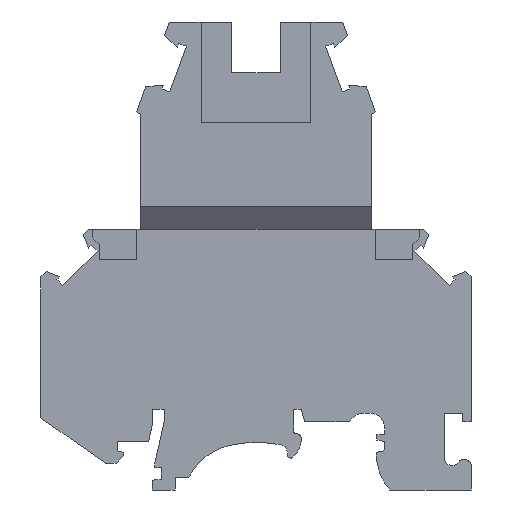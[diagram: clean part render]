
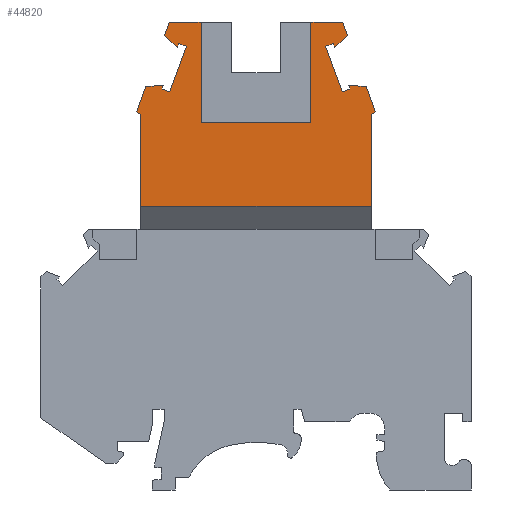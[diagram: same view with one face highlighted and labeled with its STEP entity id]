
A CAD part, left-side view. The second image highlights one B-rep face of the part: STEP entity #44820.
In plain terms, the highlighted planar face has unit normal (-1, 0, 0) as drawn and (0, 0, -1) by its records, which use the part's own axes.
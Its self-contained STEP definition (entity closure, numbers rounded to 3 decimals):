
#40810=CARTESIAN_POINT('',(32.147,87.84,-8.75));
#40820=VERTEX_POINT('',#40810);
#40850=CARTESIAN_POINT('',(32.147,57.59,-8.75));
#40860=DIRECTION('',(0.,-1.,0.));
#40870=VECTOR('',#40860,1.);
#40880=LINE('',#40850,#40870);
#40890=CARTESIAN_POINT('',(32.147,99.721,-8.75));
#40900=VERTEX_POINT('',#40890);
#40910=EDGE_CURVE('',#40900,#40820,#40880,.T.);
#42430=CARTESIAN_POINT('',(47.147,87.954,-8.75));
#42440=DIRECTION('',(0.787,-0.617,0.));
#42450=VECTOR('',#42440,1.);
#42460=LINE('',#42430,#42450);
#42470=CARTESIAN_POINT('',(31.619,100.136,-8.75));
#42480=VERTEX_POINT('',#42470);
#42490=EDGE_CURVE('',#42480,#40900,#42460,.T.);
#42670=CARTESIAN_POINT('',(131.631,-81.099,-8.75));
#42680=DIRECTION('',(0.,0.,1.));
#42690=DIRECTION('',(1.,0.,0.));
#42700=AXIS2_PLACEMENT_3D('',#42670,#42680,#42690);
#42710=PLANE('',#42700);
#42720=CARTESIAN_POINT('',(62.147,57.59,-8.75));
#42730=DIRECTION('',(0.,1.,0.));
#42740=VECTOR('',#42730,1.);
#42750=LINE('',#42720,#42740);
#42760=CARTESIAN_POINT('',(62.147,87.84,-8.75));
#42770=VERTEX_POINT('',#42760);
#42780=CARTESIAN_POINT('',(62.147,99.721,-8.75));
#42790=VERTEX_POINT('',#42780);
#42800=EDGE_CURVE('',#42770,#42790,#42750,.T.);
#42810=ORIENTED_EDGE('',*,*,#42800,.F.);
#42820=CARTESIAN_POINT('',(47.147,87.954,-8.75));
#42830=DIRECTION('',(0.787,0.617,0.));
#42840=VECTOR('',#42830,1.);
#42850=LINE('',#42820,#42840);
#42860=CARTESIAN_POINT('',(62.676,100.136,-8.75));
#42870=VERTEX_POINT('',#42860);
#42880=EDGE_CURVE('',#42790,#42870,#42850,.T.);
#42890=ORIENTED_EDGE('',*,*,#42880,.F.);
#42900=CARTESIAN_POINT('',(78.161,57.59,-8.75));
#42910=DIRECTION('',(-0.342,0.94,0.));
#42920=VECTOR('',#42910,1.);
#42930=LINE('',#42900,#42920);
#42940=CARTESIAN_POINT('',(61.488,103.398,-8.75));
#42950=VERTEX_POINT('',#42940);
#42960=EDGE_CURVE('',#42870,#42950,#42930,.T.);
#42970=ORIENTED_EDGE('',*,*,#42960,.F.);
#42980=CARTESIAN_POINT('',(47.147,104.332,-8.75));
#42990=DIRECTION('',(-0.998,0.065,0.));
#43000=VECTOR('',#42990,1.);
#43010=LINE('',#42980,#43000);
#43020=CARTESIAN_POINT('',(59.194,103.548,-8.75));
#43030=VERTEX_POINT('',#43020);
#43040=EDGE_CURVE('',#42950,#43030,#43010,.T.);
#43050=ORIENTED_EDGE('',*,*,#43040,.F.);
#43060=CARTESIAN_POINT('',(75.921,57.59,-8.75));
#43070=DIRECTION('',(0.342,-0.94,0.));
#43080=VECTOR('',#43070,1.);
#43090=LINE('',#43060,#43080);
#43100=CARTESIAN_POINT('',(59.375,103.052,-8.75));
#43110=VERTEX_POINT('',#43100);
#43120=EDGE_CURVE('',#43030,#43110,#43090,.T.);
#43130=ORIENTED_EDGE('',*,*,#43120,.F.);
#43140=CARTESIAN_POINT('',(47.147,98.601,-8.75));
#43150=DIRECTION('',(-0.94,-0.342,0.));
#43160=VECTOR('',#43150,1.);
#43170=LINE('',#43140,#43160);
#43180=CARTESIAN_POINT('',(58.369,102.686,-8.75));
#43190=VERTEX_POINT('',#43180);
#43200=EDGE_CURVE('',#43110,#43190,#43170,.T.);
#43210=ORIENTED_EDGE('',*,*,#43200,.F.);
#43220=CARTESIAN_POINT('',(74.783,57.59,-8.75));
#43230=DIRECTION('',(-0.342,0.94,0.));
#43240=VECTOR('',#43230,1.);
#43250=LINE('',#43220,#43240);
#43260=CARTESIAN_POINT('',(56.206,108.629,-8.75));
#43270=VERTEX_POINT('',#43260);
#43280=EDGE_CURVE('',#43190,#43270,#43250,.T.);
#43290=ORIENTED_EDGE('',*,*,#43280,.F.);
#43300=CARTESIAN_POINT('',(47.147,105.332,-8.75));
#43310=DIRECTION('',(0.94,0.342,0.));
#43320=VECTOR('',#43310,1.);
#43330=LINE('',#43300,#43320);
#43340=CARTESIAN_POINT('',(57.211,108.995,-8.75));
#43350=VERTEX_POINT('',#43340);
#43360=EDGE_CURVE('',#43270,#43350,#43330,.T.);
#43370=ORIENTED_EDGE('',*,*,#43360,.F.);
#43380=CARTESIAN_POINT('',(75.921,57.59,-8.75));
#43390=DIRECTION('',(0.342,-0.94,0.));
#43400=VECTOR('',#43390,1.);
#43410=LINE('',#43380,#43400);
#43420=CARTESIAN_POINT('',(57.392,108.499,-8.75));
#43430=VERTEX_POINT('',#43420);
#43440=EDGE_CURVE('',#43350,#43430,#43410,.T.);
#43450=ORIENTED_EDGE('',*,*,#43440,.F.);
#43460=CARTESIAN_POINT('',(47.147,98.701,-8.75));
#43470=DIRECTION('',(0.723,0.691,0.));
#43480=VECTOR('',#43470,1.);
#43490=LINE('',#43460,#43480);
#43500=CARTESIAN_POINT('',(59.053,110.088,-8.75));
#43510=VERTEX_POINT('',#43500);
#43520=EDGE_CURVE('',#43430,#43510,#43490,.T.);
#43530=ORIENTED_EDGE('',*,*,#43520,.F.);
#43540=CARTESIAN_POINT('',(78.161,57.59,-8.75));
#43550=DIRECTION('',(-0.342,0.94,0.));
#43560=VECTOR('',#43550,1.);
#43570=LINE('',#43540,#43560);
#43580=CARTESIAN_POINT('',(58.434,111.79,-8.75));
#43590=VERTEX_POINT('',#43580);
#43600=EDGE_CURVE('',#43510,#43590,#43570,.T.);
#43610=ORIENTED_EDGE('',*,*,#43600,.F.);
#43620=CARTESIAN_POINT('',(47.147,111.79,-8.75));
#43630=DIRECTION('',(-1.,0.,0.));
#43640=VECTOR('',#43630,1.);
#43650=LINE('',#43620,#43640);
#43660=CARTESIAN_POINT('',(54.297,111.79,-8.75));
#43670=VERTEX_POINT('',#43660);
#43680=EDGE_CURVE('',#43590,#43670,#43650,.T.);
#43690=ORIENTED_EDGE('',*,*,#43680,.F.);
#43700=CARTESIAN_POINT('',(54.297,57.59,-8.75));
#43710=DIRECTION('',(0.,1.,0.));
#43720=VECTOR('',#43710,1.);
#43730=LINE('',#43700,#43720);
#43740=CARTESIAN_POINT('',(54.297,98.702,-8.75));
#43750=VERTEX_POINT('',#43740);
#43760=EDGE_CURVE('',#43750,#43670,#43730,.T.);
#43770=ORIENTED_EDGE('',*,*,#43760,.T.);
#43780=CARTESIAN_POINT('',(47.147,98.702,-8.75));
#43790=DIRECTION('',(1.,0.,0.));
#43800=VECTOR('',#43790,1.);
#43810=LINE('',#43780,#43800);
#43820=CARTESIAN_POINT('',(39.997,98.702,-8.75));
#43830=VERTEX_POINT('',#43820);
#43840=EDGE_CURVE('',#43830,#43750,#43810,.T.);
#43850=ORIENTED_EDGE('',*,*,#43840,.T.);
#43860=CARTESIAN_POINT('',(39.997,57.59,-8.75));
#43870=DIRECTION('',(0.,-1.,0.));
#43880=VECTOR('',#43870,1.);
#43890=LINE('',#43860,#43880);
#43900=CARTESIAN_POINT('',(39.997,111.79,-8.75));
#43910=VERTEX_POINT('',#43900);
#43920=EDGE_CURVE('',#43910,#43830,#43890,.T.);
#43930=ORIENTED_EDGE('',*,*,#43920,.T.);
#43940=CARTESIAN_POINT('',(47.147,111.79,-8.75));
#43950=DIRECTION('',(-1.,0.,0.));
#43960=VECTOR('',#43950,1.);
#43970=LINE('',#43940,#43960);
#43980=CARTESIAN_POINT('',(35.861,111.79,-8.75));
#43990=VERTEX_POINT('',#43980);
#44000=EDGE_CURVE('',#43910,#43990,#43970,.T.);
#44010=ORIENTED_EDGE('',*,*,#44000,.F.);
#44020=CARTESIAN_POINT('',(16.133,57.59,-8.75));
#44030=DIRECTION('',(-0.342,-0.94,0.));
#44040=VECTOR('',#44030,1.);
#44050=LINE('',#44020,#44040);
#44060=CARTESIAN_POINT('',(35.241,110.088,-8.75));
#44070=VERTEX_POINT('',#44060);
#44080=EDGE_CURVE('',#43990,#44070,#44050,.T.);
#44090=ORIENTED_EDGE('',*,*,#44080,.F.);
#44100=CARTESIAN_POINT('',(47.147,98.701,-8.75));
#44110=DIRECTION('',(0.723,-0.691,0.));
#44120=VECTOR('',#44110,1.);
#44130=LINE('',#44100,#44120);
#44140=CARTESIAN_POINT('',(36.903,108.499,-8.75));
#44150=VERTEX_POINT('',#44140);
#44160=EDGE_CURVE('',#44070,#44150,#44130,.T.);
#44170=ORIENTED_EDGE('',*,*,#44160,.F.);
#44180=CARTESIAN_POINT('',(18.374,57.59,-8.75));
#44190=DIRECTION('',(0.342,0.94,0.));
#44200=VECTOR('',#44190,1.);
#44210=LINE('',#44180,#44200);
#44220=CARTESIAN_POINT('',(37.084,108.995,-8.75));
#44230=VERTEX_POINT('',#44220);
#44240=EDGE_CURVE('',#44150,#44230,#44210,.T.);
#44250=ORIENTED_EDGE('',*,*,#44240,.F.);
#44260=CARTESIAN_POINT('',(47.147,105.332,-8.75));
#44270=DIRECTION('',(0.94,-0.342,0.));
#44280=VECTOR('',#44270,1.);
#44290=LINE('',#44260,#44280);
#44300=CARTESIAN_POINT('',(38.089,108.629,-8.75));
#44310=VERTEX_POINT('',#44300);
#44320=EDGE_CURVE('',#44230,#44310,#44290,.T.);
#44330=ORIENTED_EDGE('',*,*,#44320,.F.);
#44340=CARTESIAN_POINT('',(19.512,57.59,-8.75));
#44350=DIRECTION('',(-0.342,-0.94,0.));
#44360=VECTOR('',#44350,1.);
#44370=LINE('',#44340,#44360);
#44380=CARTESIAN_POINT('',(35.926,102.686,-8.75));
#44390=VERTEX_POINT('',#44380);
#44400=EDGE_CURVE('',#44310,#44390,#44370,.T.);
#44410=ORIENTED_EDGE('',*,*,#44400,.F.);
#44420=CARTESIAN_POINT('',(47.147,98.601,-8.75));
#44430=DIRECTION('',(-0.94,0.342,0.));
#44440=VECTOR('',#44430,1.);
#44450=LINE('',#44420,#44440);
#44460=CARTESIAN_POINT('',(34.92,103.052,-8.75));
#44470=VERTEX_POINT('',#44460);
#44480=EDGE_CURVE('',#44390,#44470,#44450,.T.);
#44490=ORIENTED_EDGE('',*,*,#44480,.F.);
#44500=CARTESIAN_POINT('',(18.374,57.59,-8.75));
#44510=DIRECTION('',(0.342,0.94,0.));
#44520=VECTOR('',#44510,1.);
#44530=LINE('',#44500,#44520);
#44540=CARTESIAN_POINT('',(35.101,103.548,-8.75));
#44550=VERTEX_POINT('',#44540);
#44560=EDGE_CURVE('',#44470,#44550,#44530,.T.);
#44570=ORIENTED_EDGE('',*,*,#44560,.F.);
#44580=CARTESIAN_POINT('',(47.147,104.332,-8.75));
#44590=DIRECTION('',(-0.998,-0.065,0.));
#44600=VECTOR('',#44590,1.);
#44610=LINE('',#44580,#44600);
#44620=CARTESIAN_POINT('',(32.806,103.398,-8.75));
#44630=VERTEX_POINT('',#44620);
#44640=EDGE_CURVE('',#44550,#44630,#44610,.T.);
#44650=ORIENTED_EDGE('',*,*,#44640,.F.);
#44660=CARTESIAN_POINT('',(16.133,57.59,-8.75));
#44670=DIRECTION('',(-0.342,-0.94,0.));
#44680=VECTOR('',#44670,1.);
#44690=LINE('',#44660,#44680);
#44700=EDGE_CURVE('',#44630,#42480,#44690,.T.);
#44710=ORIENTED_EDGE('',*,*,#44700,.F.);
#44720=ORIENTED_EDGE('',*,*,#42490,.F.);
#44730=ORIENTED_EDGE('',*,*,#40910,.F.);
#44740=CARTESIAN_POINT('',(47.147,87.84,-8.75));
#44750=DIRECTION('',(-1.,0.,0.));
#44760=VECTOR('',#44750,1.);
#44770=LINE('',#44740,#44760);
#44780=EDGE_CURVE('',#42770,#40820,#44770,.T.);
#44790=ORIENTED_EDGE('',*,*,#44780,.T.);
#44800=EDGE_LOOP('',(#44790,#44730,#44720,#44710,#44650,#44570,#44490,
#44410,#44330,#44250,#44170,#44090,#44010,#43930,#43850,#43770,#43690,
#43610,#43530,#43450,#43370,#43290,#43210,#43130,#43050,#42970,#42890,
#42810));
#44810=FACE_OUTER_BOUND('',#44800,.T.);
#44820=ADVANCED_FACE('',(#44810),#42710,.F.);
